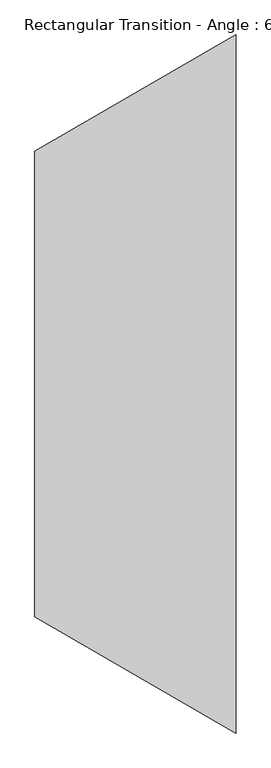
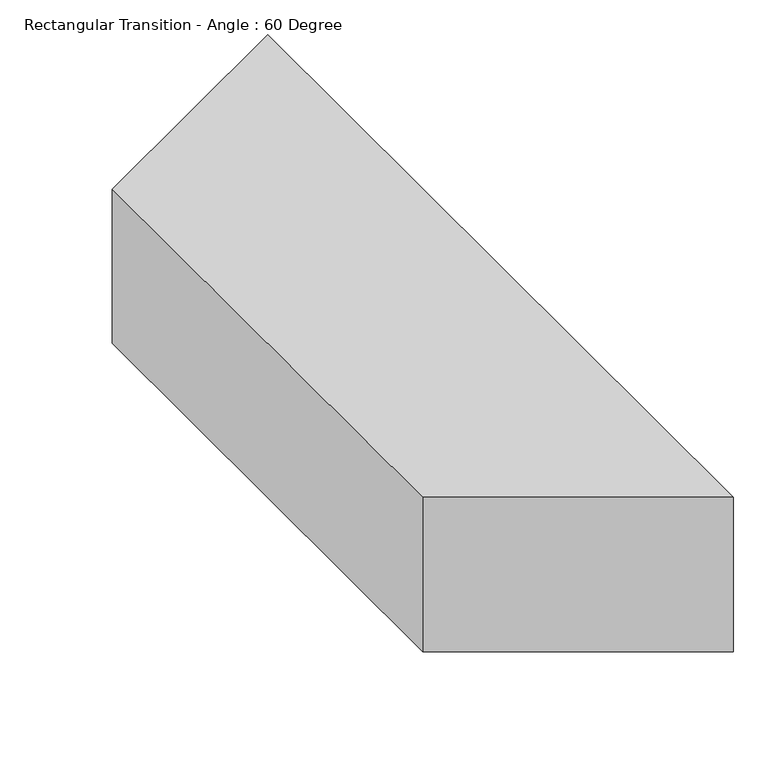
"""IFC4 building model written with IfcOpenShell, lengths in millimetres: duct fitting geometry, Rectangular Transition - Angle : 60 Degree."""

import ifcopenshell
import ifcopenshell.guid

model = None  # the IFC model being written
_history = None  # IfcOwnerHistory: only IFC2X3 demands one
_inside = {}  # id of a spatial element -> (the spatial element, [elements in it])
_under = {}  # id of a project, library or spatial element -> (it, [spatial elements below it])
_declared = {}  # id of a project -> (the project, [libraries it declares])
_typed = {}  # id of a type object -> (the type object, [elements of that type])
_made_of = {}  # id of a material, layer set ... -> (it, [elements and type objects made of it])


def new_model(schema):
    """Start an empty IFC model of exactly this schema.

    Asked for "IFC4X3", IfcOpenShell would pick the latest addendum, in which some entities
    have other attributes; the version numbers below select the first issue.
    IFC2X3 requires an IfcOwnerHistory on every rooted entity: one is made here for all.
    """
    global model, _history
    if schema == "IFC4X3":
        model = ifcopenshell.file(schema_version=(4, 3, 0, 0))
    else:
        model = ifcopenshell.file(schema=schema)
    _inside.clear()
    _under.clear()
    _declared.clear()
    _typed.clear()
    _made_of.clear()
    _history = None
    if model.schema == "IFC2X3":
        org = make("IfcOrganization", Name="unknown")
        user = make(
            "IfcPersonAndOrganization",
            ThePerson=make("IfcPerson", FamilyName="unknown"),
            TheOrganization=org,
        )
        app = make(
            "IfcApplication",
            ApplicationDeveloper=org,
            Version="unknown",
            ApplicationFullName="unknown",
            ApplicationIdentifier="unknown",
        )
        _history = make(
            "IfcOwnerHistory",
            OwningUser=user,
            OwningApplication=app,
            ChangeAction="ADDED",
            CreationDate=0,
        )
    return model


def make(cls, **values):
    """One entity of the class cls with the attributes given. An attribute that is None is left unset."""
    return model.create_entity(
        cls, **{name: value for name, value in values.items() if value is not None}
    )


def rooted(cls, **values):
    """An entity with a GlobalId (a new one), such as an element, a storey or a relation."""
    return make(cls, GlobalId=ifcopenshell.guid.new(), OwnerHistory=_history, **values)


def si_unit(unit_type, name, prefix=None):
    """IfcSIUnit, for example si_unit("LENGTHUNIT", "METRE", prefix="MILLI")."""
    return make("IfcSIUnit", UnitType=unit_type, Prefix=prefix, Name=name)


def assignment(units):
    """IfcUnitAssignment: the units of a project."""
    return None if units is None else make("IfcUnitAssignment", Units=units)


def point(xyz):
    """IfcCartesianPoint."""
    return None if xyz is None else make("IfcCartesianPoint", Coordinates=xyz)


def direction(xyz):
    """IfcDirection."""
    return None if xyz is None else make("IfcDirection", DirectionRatios=xyz)


def frame(location, z_axis=None, x_axis=None):
    """IfcAxis2Placement3D, a coordinate frame: its origin and axes. An axis left out is left unset."""
    return make(
        "IfcAxis2Placement3D",
        Location=point(location),
        Axis=direction(z_axis),
        RefDirection=direction(x_axis),
    )


def origin():
    """The frame at (0, 0, 0) with its axes left unset."""
    return frame((0.0, 0.0, 0.0))


def place(relative_to, where):
    """IfcLocalPlacement: puts the frame where relative to a parent placement (None: the world)."""
    return make(
        "IfcLocalPlacement", PlacementRelTo=relative_to, RelativePlacement=where
    )


def context(
    kind, dimensions, precision=None, world=None, true_north=None, identifier=None
):
    """IfcGeometricRepresentationContext, for example the 3D "Model" context."""
    return make(
        "IfcGeometricRepresentationContext",
        ContextIdentifier=identifier,
        ContextType=kind,
        CoordinateSpaceDimension=dimensions,
        Precision=precision,
        WorldCoordinateSystem=world,
        TrueNorth=true_north,
    )


def project(units=None, contexts=None):
    """IfcProject with its units and contexts."""
    return rooted(
        "IfcProject",
        Name="project",
        RepresentationContexts=contexts,
        UnitsInContext=assignment(units),
    )


def spatial(cls, under=None, at=None, **own):
    """A site, building, storey or space (cls), placed at a placement, below another one or the project."""
    s = rooted(cls, ObjectPlacement=at, **own)
    if under is not None:
        _under.setdefault(under.id(), (under, []))[1].append(s)
    return s


def polyline(points):
    """IfcPolyline through the points."""
    return make("IfcPolyline", Points=[point(p) for p in points])


def outline(outer, holes=None, kind="AREA"):
    """IfcArbitraryClosedProfileDef: a profile drawn as a closed curve; with holes, ...WithVoids."""
    if holes is None:
        return make("IfcArbitraryClosedProfileDef", ProfileType=kind, OuterCurve=outer)
    return make(
        "IfcArbitraryProfileDefWithVoids",
        ProfileType=kind,
        OuterCurve=outer,
        InnerCurves=holes,
    )


def extrude(swept, where, along, depth):
    """IfcExtrudedAreaSolid: the profile swept, set in the frame where, extruded along a direction by depth."""
    return make(
        "IfcExtrudedAreaSolid",
        SweptArea=swept,
        Position=where,
        ExtrudedDirection=direction(along),
        Depth=depth,
    )


def shape(context_of_items, identifier, shape_type, items):
    """IfcShapeRepresentation: the items that make up one representation, for example the "Body"."""
    return make(
        "IfcShapeRepresentation",
        ContextOfItems=context_of_items,
        RepresentationIdentifier=identifier,
        RepresentationType=shape_type,
        Items=items,
    )


def source(mapping_origin, context_of_items, identifier, shape_type, items):
    """IfcRepresentationMap: a shape defined once, which mapped items show again and again."""
    return make(
        "IfcRepresentationMap",
        MappingOrigin=mapping_origin,
        MappedRepresentation=shape(context_of_items, identifier, shape_type, items),
    )


def transform(
    local_origin,
    x_axis=None,
    y_axis=None,
    z_axis=None,
    scale=None,
    scale2=None,
    scale3=None,
    uniform=True,
):
    """IfcCartesianTransformationOperator3D, or its non-uniform kind. x_axis, y_axis, z_axis: its Axis1, 2, 3."""
    if uniform:
        return make(
            "IfcCartesianTransformationOperator3D",
            Axis1=direction(x_axis),
            Axis2=direction(y_axis),
            LocalOrigin=point(local_origin),
            Scale=scale,
            Axis3=direction(z_axis),
        )
    return make(
        "IfcCartesianTransformationOperator3DnonUniform",
        Axis1=direction(x_axis),
        Axis2=direction(y_axis),
        LocalOrigin=point(local_origin),
        Scale=scale,
        Axis3=direction(z_axis),
        Scale2=scale2,
        Scale3=scale3,
    )


def mapped(mapping_source, mapping_target):
    """IfcMappedItem: shows the shape of a source again, moved by a transform."""
    return make(
        "IfcMappedItem", MappingSource=mapping_source, MappingTarget=mapping_target
    )


def made_of(thing, what):
    """Note that an element or type object is made of a material, layer set ...; save() writes the relation."""
    if what is not None:
        _made_of.setdefault(what.id(), (what, []))[1].append(thing)
    return thing


def element(
    cls,
    number,
    at=None,
    inside=None,
    cuts=None,
    type_object=None,
    material=None,
    context=None,
    identifier="Body",
    shape_type=None,
    held_by="IfcProductDefinitionShape",
    body=None,
    shapes=None,
    **own,
):
    """One element of the class cls, such as IfcWall. Its Tag is "e" and its number.

    at: its placement. inside: the storey or other place that contains it. cuts: it is an
    opening in that element (IfcRelVoidsElement). A single representation is given by context,
    identifier, shape_type and body (its items); several are given by shapes. held_by: the class
    of the entity that holds the representations. save() writes the other relations.
    """
    e = rooted(cls, Tag="e%d" % number, ObjectPlacement=at, **own)
    if body is not None:
        shapes = [shape(context, identifier, shape_type, body)]
    if shapes is not None:
        e.Representation = make(held_by, Representations=shapes)
    if inside is not None:
        _inside.setdefault(inside.id(), (inside, []))[1].append(e)
    if cuts is not None:
        rooted(
            "IfcRelVoidsElement", RelatingBuildingElement=cuts, RelatedOpeningElement=e
        )
    if type_object is not None:
        _typed.setdefault(type_object.id(), (type_object, []))[1].append(e)
    return made_of(e, material)


def aggregate(whole, parts):
    """IfcRelAggregates: a whole, such as a stair, and the parts it consists of."""
    return rooted("IfcRelAggregates", RelatingObject=whole, RelatedObjects=parts)


def save(model, path):
    """Write the relations noted so far, then the file.

    IfcRelAggregates (storeys below a building ...), IfcRelContainedInSpatialStructure (elements
    in a storey), IfcRelDefinesByType, IfcRelAssociatesMaterial and IfcRelDeclares: one each for
    every whole, place, type object, material and project.
    """
    for whole, parts in _under.values():
        aggregate(whole, parts)
    for where, things in _inside.values():
        rooted(
            "IfcRelContainedInSpatialStructure",
            RelatedElements=things,
            RelatingStructure=where,
        )
    for kind, things in _typed.values():
        rooted("IfcRelDefinesByType", RelatedObjects=things, RelatingType=kind)
    for what, things in _made_of.values():
        rooted("IfcRelAssociatesMaterial", RelatedObjects=things, RelatingMaterial=what)
    for by, libraries in _declared.values():
        rooted("IfcRelDeclares", RelatingContext=by, RelatedDefinitions=libraries)
    model.write(path)


def rectangular_transition_angle_60_degree_48101eff(model_context):
    return source(origin(), model_context, "Body", "SweptSolid", [
        extrude(outline(polyline([(0.0, -711.2), (0.0, 711.2), (615.9172672, 1066.8), (615.9172672, -1066.8), (0.0, -711.2)])), frame((0.0, 0.0, -215.9), z_axis=(0.0, 0.0, 1.0), x_axis=(1.0, 0.0, 0.0)), (0.0, 0.0, 1.0), 431.8),
    ])


if __name__ == "__main__":
    model = new_model("IFC4")
    model_context = context("Model", 3, world=origin())
    ifc_project = project(units=[si_unit("LENGTHUNIT", "METRE", prefix="MILLI")], contexts=[model_context])
    site = spatial("IfcSite", under=ifc_project)
    building = spatial("IfcBuilding", under=site)
    placement = place(None, origin())
    rectangular_transition_angle_60_degree_shape = rectangular_transition_angle_60_degree_48101eff(model_context)
    element("IfcDuctFitting", 1, ObjectType="Rectangular Transition - Angle : 60 Degree", at=placement, inside=building, context=model_context, shape_type="MappedRepresentation", body=[
        mapped(rectangular_transition_angle_60_degree_shape, transform((0.0, 0.0, 0.0), x_axis=(1.0, 0.0, 0.0), y_axis=(0.0, 1.0, 0.0), z_axis=(0.0, 0.0, 1.0))),
    ])
    save(model, "model.ifc")
